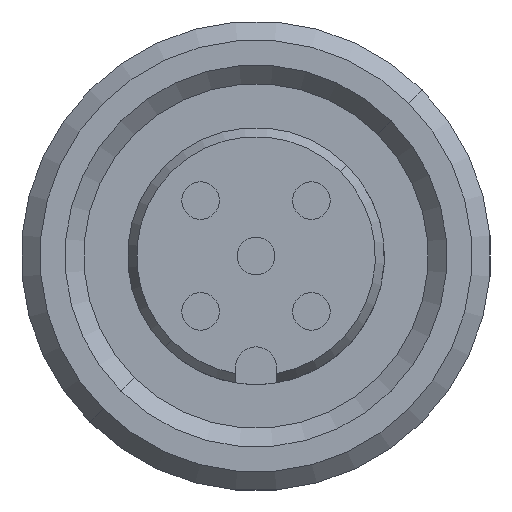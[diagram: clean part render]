
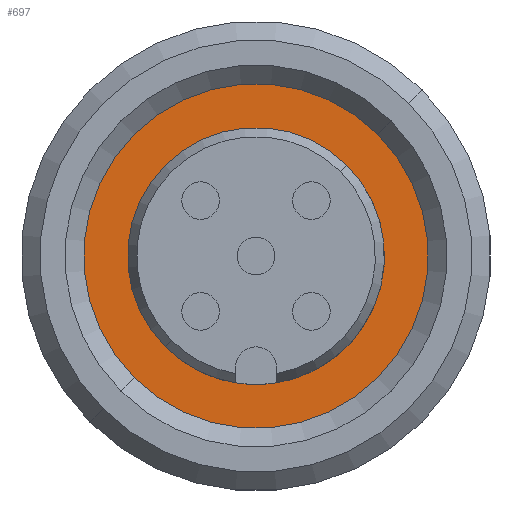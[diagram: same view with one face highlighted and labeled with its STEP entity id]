
A CAD part, left-side view. The second image highlights one B-rep face of the part: STEP entity #697.
In plain terms, the highlighted planar face has unit normal (-1, 0, 0).
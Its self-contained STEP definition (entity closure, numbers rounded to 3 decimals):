
#167 = CARTESIAN_POINT ( 'NONE',  ( -17.695, 4.795, 0.074 ) ) ;
#281 = DIRECTION ( 'NONE',  ( -1., 0., 0. ) ) ;
#363 = EDGE_CURVE ( 'NONE', #843, #7540, #3062, .T. ) ;
#697 = ADVANCED_FACE ( 'NONE', ( #7423, #1285 ), #2619, .T. ) ;
#766 = DIRECTION ( 'NONE',  ( 0., -0.707, 0.707 ) ) ;
#843 = VERTEX_POINT ( 'NONE', #4511 ) ;
#1095 = EDGE_CURVE ( 'NONE', #7540, #843, #3047, .T. ) ;
#1285 = FACE_BOUND ( 'NONE', #4415, .T. ) ;
#1515 = AXIS2_PLACEMENT_3D ( 'NONE', #6319, #2734, #6906 ) ;
#1872 = CARTESIAN_POINT ( 'NONE',  ( -17.695, 0.905, 3.963 ) ) ;
#1910 = DIRECTION ( 'NONE',  ( -1., 0., 0. ) ) ;
#2052 = DIRECTION ( 'NONE',  ( -1., 0., 0. ) ) ;
#2467 = AXIS2_PLACEMENT_3D ( 'NONE', #3847, #281, #4431 ) ;
#2536 = ORIENTED_EDGE ( 'NONE', *, *, #363, .F. ) ;
#2558 = AXIS2_PLACEMENT_3D ( 'NONE', #5626, #2052, #6221 ) ;
#2619 = PLANE ( 'NONE',  #2558 ) ;
#2639 = VERTEX_POINT ( 'NONE', #3266 ) ;
#2734 = DIRECTION ( 'NONE',  ( -1., 0., 0. ) ) ;
#3047 = CIRCLE ( 'NONE', #3624, 4.1 ) ;
#3062 = CIRCLE ( 'NONE', #2467, 4.1 ) ;
#3266 = CARTESIAN_POINT ( 'NONE',  ( -17.695, 8.684, -3.815 ) ) ;
#3624 = AXIS2_PLACEMENT_3D ( 'NONE', #5474, #1910, #6068 ) ;
#3847 = CARTESIAN_POINT ( 'NONE',  ( -17.695, 4.795, 0.074 ) ) ;
#3882 = CIRCLE ( 'NONE', #5818, 5.5 ) ;
#4091 = CIRCLE ( 'NONE', #1515, 5.5 ) ;
#4332 = DIRECTION ( 'NONE',  ( -1., 0., 0. ) ) ;
#4415 = EDGE_LOOP ( 'NONE', ( #4958, #2536 ) ) ;
#4431 = DIRECTION ( 'NONE',  ( 0., -0.707, 0.707 ) ) ;
#4499 = ORIENTED_EDGE ( 'NONE', *, *, #5082, .T. ) ;
#4511 = CARTESIAN_POINT ( 'NONE',  ( -17.695, 7.694, -2.825 ) ) ;
#4782 = EDGE_CURVE ( 'NONE', #2639, #7427, #3882, .T. ) ;
#4807 = ORIENTED_EDGE ( 'NONE', *, *, #4782, .T. ) ;
#4958 = ORIENTED_EDGE ( 'NONE', *, *, #1095, .F. ) ;
#5082 = EDGE_CURVE ( 'NONE', #7427, #2639, #4091, .T. ) ;
#5474 = CARTESIAN_POINT ( 'NONE',  ( -17.695, 4.795, 0.074 ) ) ;
#5626 = CARTESIAN_POINT ( 'NONE',  ( -17.695, 1.4, 3.468 ) ) ;
#5722 = EDGE_LOOP ( 'NONE', ( #4499, #4807 ) ) ;
#5818 = AXIS2_PLACEMENT_3D ( 'NONE', #167, #4332, #766 ) ;
#6068 = DIRECTION ( 'NONE',  ( 0., -0.707, 0.707 ) ) ;
#6221 = DIRECTION ( 'NONE',  ( 0., 0.707, 0.707 ) ) ;
#6319 = CARTESIAN_POINT ( 'NONE',  ( -17.695, 4.795, 0.074 ) ) ;
#6676 = CARTESIAN_POINT ( 'NONE',  ( -17.695, 1.895, 2.973 ) ) ;
#6906 = DIRECTION ( 'NONE',  ( 0., -0.707, 0.707 ) ) ;
#7423 = FACE_OUTER_BOUND ( 'NONE', #5722, .T. ) ;
#7427 = VERTEX_POINT ( 'NONE', #1872 ) ;
#7540 = VERTEX_POINT ( 'NONE', #6676 ) ;
